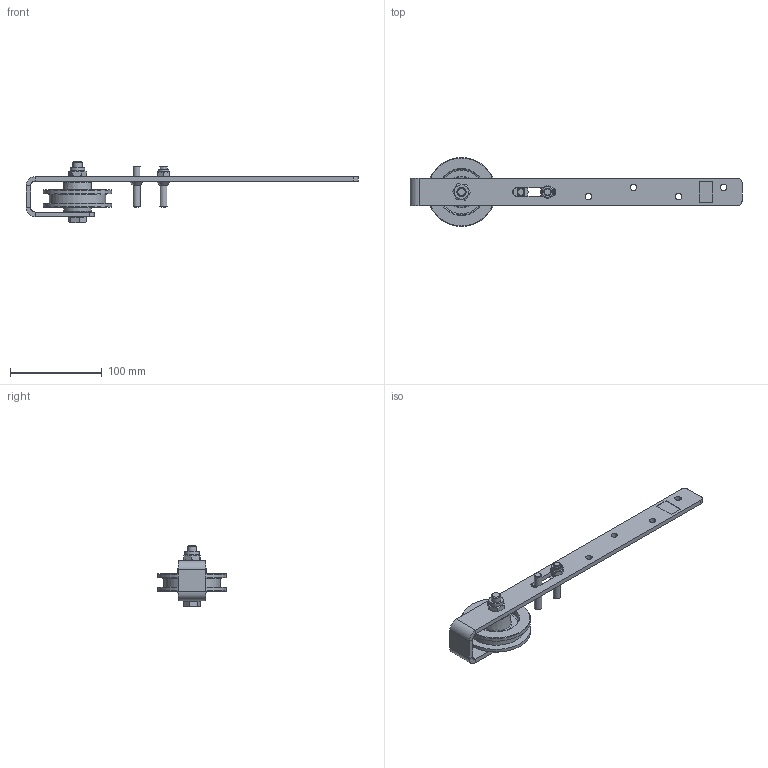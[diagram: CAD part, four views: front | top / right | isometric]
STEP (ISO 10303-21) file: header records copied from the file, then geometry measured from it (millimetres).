
FILE_DESCRIPTION(/* description */ ('Schiebetorrolle mit Buegel Ø75'),/* implementation_level */ '2;1');
FILE_NAME(/* name */ '010330128.iam.stp',/* time_stamp */ '2023-08-31T09:20:19+02:00',/* author */ ('Lesti'),/* organization */ (''),/* preprocessor_version */ 'ST-DEVELOPER v19.2',/* originating_system */ 'Autodesk Inventor 2023',/* authorisation */ '');
FILE_SCHEMA (('AUTOMOTIVE_DESIGN { 1 0 10303 214 3 1 1 }'));
Length unit declared in the file: millimetre
Products named in the file (8): 010330128; 010330128_03; 337000105; 011331029; DIN EN ISO 7040 - M8; DIN EN ISO 7040 - M10; DIN 931-1 - M10 x 60; 010330128_04
Assembly tree (16 placements, depth 2):
  010330128
    010330128_03
    337000105
    011331029  x2
    DIN EN ISO 7040 - M8
    DIN EN ISO 7040 - M10
    DIN 931-1 - M10 x 60
    010330128_04  x9
Bounding box: 361 x 75 x 66.4 mm (x, y, z)
Volume: 136019.9 mm3; surface area: 66146.5 mm2
Topology: 16 solids, 16 shells, 205 faces, 441 edges, 278 vertices
Faces by surface type: plane 114, cylinder 43, cone 27, bspline 15, torus 6
Full cylindrical faces by diameter (mm): 5 x9, 6.647 x1, 7 x4, 8 x4, 8.376 x1, 10 x1, 10.5 x2, 11.6 x1, 15.6 x2, 16 x2, 20 x1, 61 x1, 75 x2
Entity records: 5147 total; most frequent: CARTESIAN_POINT 1078, DIRECTION 786, ORIENTED_EDGE 762, EDGE_CURVE 381, AXIS2_PLACEMENT_3D 292, VERTEX_POINT 241, LINE 202, VECTOR 202
